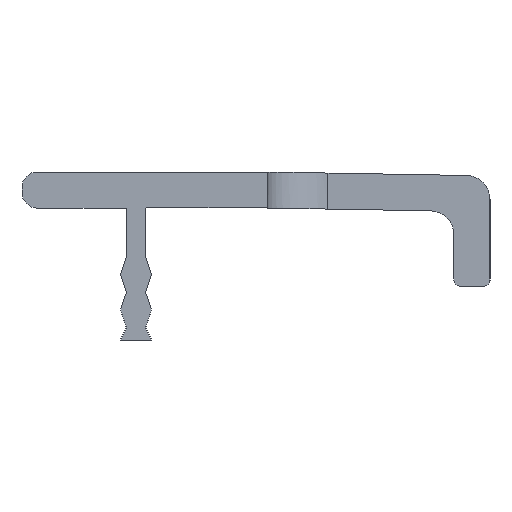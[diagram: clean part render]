
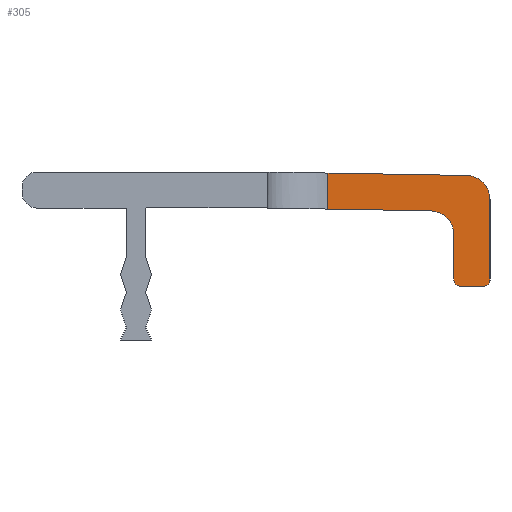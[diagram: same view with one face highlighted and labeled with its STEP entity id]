
A CAD part, left-side view. The second image highlights one B-rep face of the part: STEP entity #305.
In plain terms, the highlighted planar face has unit normal (-1, 0, 0).
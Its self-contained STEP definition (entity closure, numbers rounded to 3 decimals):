
#255 = EDGE_CURVE( '', #619, #333, #726, .T. );
#267 = VERTEX_POINT( '', #739 );
#297 = EDGE_CURVE( '', #697, #485, #772, .T. );
#305 = ADVANCED_FACE( '', ( #782 ), #783, .F. );
#307 = VERTEX_POINT( '', #785 );
#311 = EDGE_CURVE( '', #625, #455, #789, .T. );
#333 = VERTEX_POINT( '', #811 );
#359 = EDGE_CURVE( '', #485, #619, #841, .T. );
#367 = EDGE_CURVE( '', #267, #499, #849, .T. );
#455 = VERTEX_POINT( '', #944 );
#485 = VERTEX_POINT( '', #975 );
#489 = EDGE_CURVE( '', #455, #307, #979, .T. );
#499 = VERTEX_POINT( '', #991 );
#539 = EDGE_CURVE( '', #307, #639, #1035, .T. );
#581 = EDGE_CURVE( '', #333, #625, #1081, .T. );
#601 = EDGE_CURVE( '', #639, #499, #1102, .T. );
#619 = VERTEX_POINT( '', #1123 );
#625 = VERTEX_POINT( '', #1129 );
#639 = VERTEX_POINT( '', #1143 );
#697 = VERTEX_POINT( '', #1207 );
#699 = EDGE_CURVE( '', #267, #697, #1209, .T. );
#726 = CIRCLE( '', #1229, 0.5 );
#739 = CARTESIAN_POINT( '', ( -247.5, -16., 2.913 ) );
#772 = CIRCLE( '', #1294, 2. );
#782 = FACE_OUTER_BOUND( '', #1304, .T. );
#783 = PLANE( '', #1305 );
#785 = CARTESIAN_POINT( '', ( -247.5, -26.5, -2.236 ) );
#789 = CIRCLE( '', #1313, 0.5 );
#811 = CARTESIAN_POINT( '', ( -247.5, -29., -6.5 ) );
#841 = LINE( '', #1385, #1386 );
#849 = LINE( '', #1395, #1396 );
#944 = CARTESIAN_POINT( '', ( -247.5, -26.5, -6. ) );
#975 = CARTESIAN_POINT( '', ( -247.5, -29.5, 0.712 ) );
#979 = LINE( '', #1582, #1583 );
#991 = CARTESIAN_POINT( '', ( -247.5, -16., -0.088 ) );
#1035 = CIRCLE( '', #1660, 2. );
#1081 = LINE( '', #1729, #1730 );
#1102 = LINE( '', #1761, #1762 );
#1123 = CARTESIAN_POINT( '', ( -247.5, -29.5, -6. ) );
#1129 = CARTESIAN_POINT( '', ( -247.5, -27., -6.5 ) );
#1143 = CARTESIAN_POINT( '', ( -247.5, -24.535, -0.237 ) );
#1207 = CARTESIAN_POINT( '', ( -247.5, -27.535, 2.711 ) );
#1209 = LINE( '', #1909, #1910 );
#1229 = AXIS2_PLACEMENT_3D( '', #1948, #1949, #1950 );
#1294 = AXIS2_PLACEMENT_3D( '', #1992, #1993, #1994 );
#1304 = EDGE_LOOP( '', ( #2012, #2013, #2014, #2015, #2016, #2017, #2018, #2019, #2020, #2021 ) );
#1305 = AXIS2_PLACEMENT_3D( '', #2022, #2023, #2024 );
#1313 = AXIS2_PLACEMENT_3D( '', #2028, #2029, #2030 );
#1385 = CARTESIAN_POINT( '', ( -247.5, -29.5, 5.356 ) );
#1386 = VECTOR( '', #2101, 1. );
#1395 = CARTESIAN_POINT( '', ( -247.5, -16., 10. ) );
#1396 = VECTOR( '', #2102, 1. );
#1582 = CARTESIAN_POINT( '', ( -247.5, -26.5, 2. ) );
#1583 = VECTOR( '', #2207, 1. );
#1660 = AXIS2_PLACEMENT_3D( '', #2287, #2288, #2289 );
#1729 = CARTESIAN_POINT( '', ( -247.5, -29.25, -6.5 ) );
#1730 = VECTOR( '', #2333, 1. );
#1761 = CARTESIAN_POINT( '', ( -247.5, -26.927, -0.278 ) );
#1762 = VECTOR( '', #2349, 1. );
#1909 = CARTESIAN_POINT( '', ( -247.5, -20.186, 2.84 ) );
#1910 = VECTOR( '', #2453, 1. );
#1948 = CARTESIAN_POINT( '', ( -247.5, -29., -6. ) );
#1949 = DIRECTION( '', ( 1., 0., 0. ) );
#1950 = DIRECTION( '', ( 0., -1., 0. ) );
#1992 = CARTESIAN_POINT( '', ( -247.5, -27.5, 0.712 ) );
#1993 = DIRECTION( '', ( 1., 0., 0. ) );
#1994 = DIRECTION( '', ( 0., -0.017, 1. ) );
#2012 = ORIENTED_EDGE( '', *, *, #699, .F. );
#2013 = ORIENTED_EDGE( '', *, *, #367, .T. );
#2014 = ORIENTED_EDGE( '', *, *, #601, .F. );
#2015 = ORIENTED_EDGE( '', *, *, #539, .F. );
#2016 = ORIENTED_EDGE( '', *, *, #489, .F. );
#2017 = ORIENTED_EDGE( '', *, *, #311, .F. );
#2018 = ORIENTED_EDGE( '', *, *, #581, .F. );
#2019 = ORIENTED_EDGE( '', *, *, #255, .F. );
#2020 = ORIENTED_EDGE( '', *, *, #359, .F. );
#2021 = ORIENTED_EDGE( '', *, *, #297, .F. );
#2022 = CARTESIAN_POINT( '', ( -247.5, -29.5, 10. ) );
#2023 = DIRECTION( '', ( 1., 0., 0. ) );
#2024 = DIRECTION( '', ( 0., -1., 0. ) );
#2028 = CARTESIAN_POINT( '', ( -247.5, -27., -6. ) );
#2029 = DIRECTION( '', ( 1., 0., 0. ) );
#2030 = DIRECTION( '', ( 0., 0., -1. ) );
#2101 = DIRECTION( '', ( 0., 0., -1. ) );
#2102 = DIRECTION( '', ( 0., 0., -1. ) );
#2207 = DIRECTION( '', ( 0., 0., 1. ) );
#2287 = CARTESIAN_POINT( '', ( -247.5, -24.5, -2.236 ) );
#2288 = DIRECTION( '', ( -1., 0., 0. ) );
#2289 = DIRECTION( '', ( 0., -1., 0. ) );
#2333 = DIRECTION( '', ( 0., 1., 0. ) );
#2349 = DIRECTION( '', ( 0., 1., 0.017 ) );
#2453 = DIRECTION( '', ( 0., -1., -0.017 ) );
